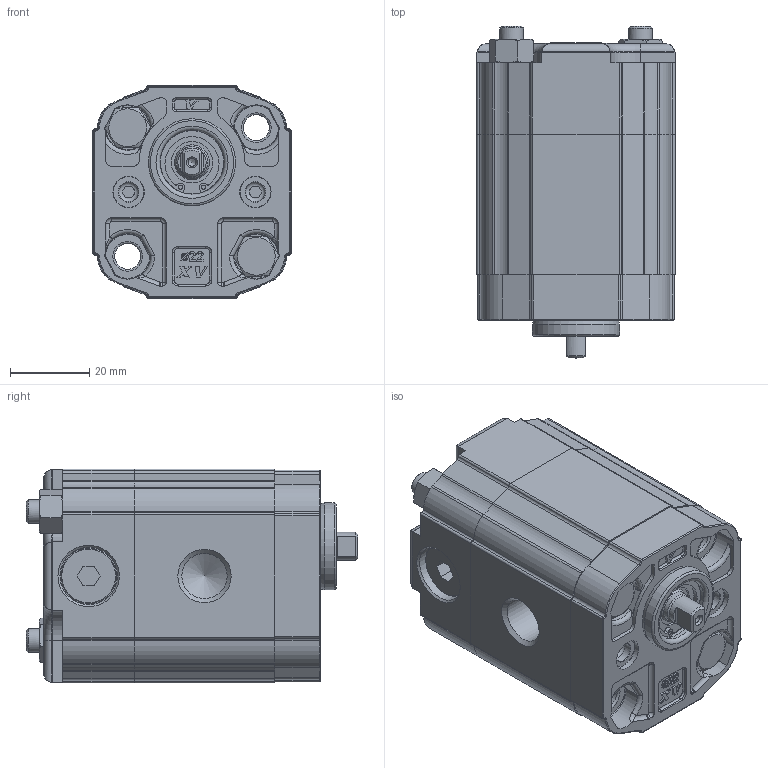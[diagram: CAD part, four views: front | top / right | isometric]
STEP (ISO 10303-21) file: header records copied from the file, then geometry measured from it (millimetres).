
FILE_DESCRIPTION(/* description */ ('Unknown'),/* implementation_level */ '2;1');
FILE_NAME(/* name */ 'X0M0707BBBF',/* time_stamp */ '2021-06-04T14:10:29+02:00',/* author */ ('Unknown'),/* organization */ ('Unknown'),/* preprocessor_version */ 'ST-DEVELOPER v16.7',/* originating_system */ 'Solid Edge',/* authorisation */ 'Unknown');
FILE_SCHEMA (('CONFIG_CONTROL_DESIGN','TECHNICAL_DATA_PACKAGING','AUTOMOTIVE_DESIGN {1 0 10303 214 3 1 1}'));
Length unit declared in the file: millimetre
Products named in the file (5): X0M0707BBBF; X0M07; 0B; X0BBH35,5; XM012-F
Assembly tree (4 placements, depth 2):
  X0M0707BBBF
    X0M07
    0B
    X0BBH35,5
    XM012-F
Bounding box: 50 x 83.8 x 54 mm (x, y, z)
Volume: 154628.4 mm3; surface area: 39332.4 mm2
Topology: 4 solids, 9 shells, 795 faces, 2039 edges, 1297 vertices
Faces by surface type: plane 346, cylinder 279, cone 71, torus 65, bspline 30, sphere 4
Full cylindrical faces by diameter (mm): 1.053 x2, 2 x1, 5 x2, 6 x4, 6.01 x2, 6.5 x8, 7.16 x1, 7.5 x2, 7.9 x2, 7.92 x1, 8 x2, 8.1 x2, 8.566 x6, 9.318 x1, 10 x4, 10.445 x1, 11 x1, 11.445 x2, 14 x5, 14.5 x2, 16 x1, 16.2 x1, 16.8 x1, 22 x1
Entity records: 29238 total; most frequent: CARTESIAN_POINT 4774, DIRECTION 4049, ORIENTED_EDGE 3766, EDGE_CURVE 1883, AXIS2_PLACEMENT_3D 1529, VERTEX_POINT 1255, LINE 991, VECTOR 991
